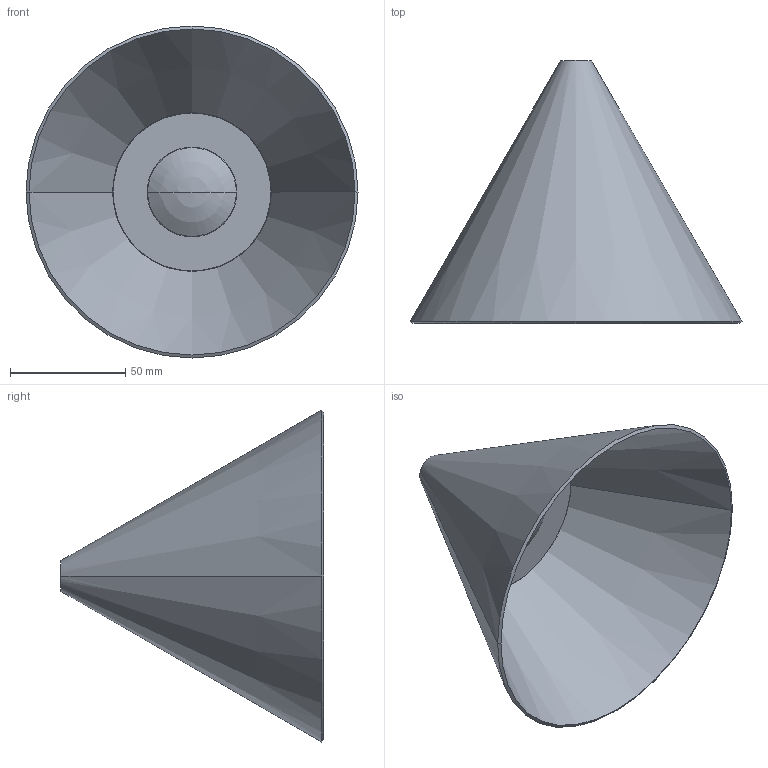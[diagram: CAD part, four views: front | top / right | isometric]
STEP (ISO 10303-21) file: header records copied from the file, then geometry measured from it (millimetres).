
FILE_DESCRIPTION((''),'2;1');
FILE_NAME('CORDINACONICO100','2025-05-13T09:35:46',('elena.baldelli'),(''),'CREO PARAMETRIC BY PTC INC, 2020354','CREO PARAMETRIC BY PTC INC, 2020354','');
FILE_SCHEMA(('CONFIG_CONTROL_DESIGN'));
Length unit declared in the file: millimetre
Products named in the file (1): CORDINACONICO100
Bounding box: 144.13 x 114.23 x 144.13 mm (x, y, z)
Surface area: 69644.4 mm2 (no closed solid volume)
Topology: 0 solids, 4 shells, 17 faces, 38 edges, 23 vertices
Faces by surface type: torus 6, cone 6, plane 3, sphere 2
Entity records: 502 total; most frequent: DIRECTION 100, CARTESIAN_POINT 76, ORIENTED_EDGE 62, AXIS2_PLACEMENT_3D 47, EDGE_CURVE 36, CIRCLE 30, VERTEX_POINT 23, EDGE_LOOP 17
